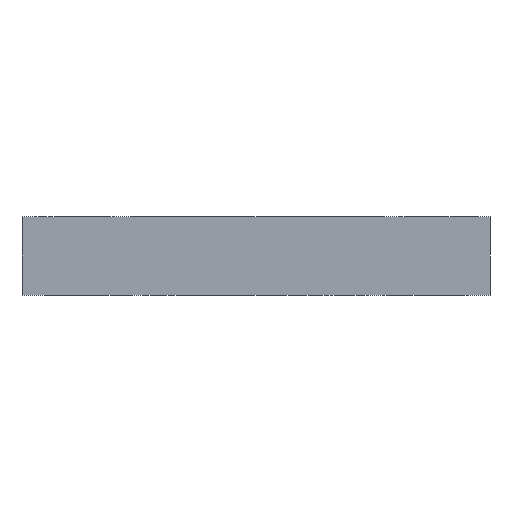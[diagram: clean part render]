
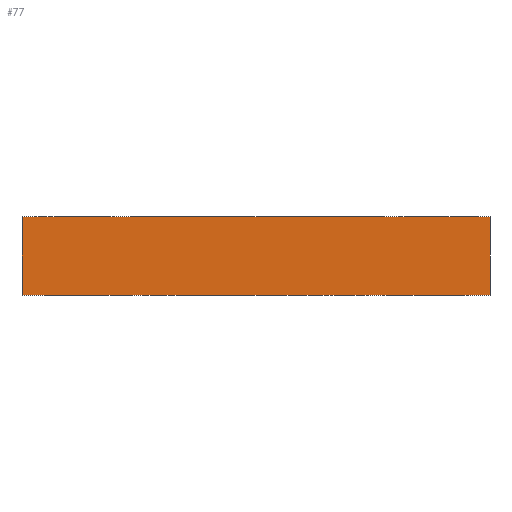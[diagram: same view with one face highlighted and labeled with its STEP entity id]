
A CAD part, front view. The second image highlights one B-rep face of the part: STEP entity #77.
In plain terms, the highlighted planar face has unit normal (0, -1, 0).
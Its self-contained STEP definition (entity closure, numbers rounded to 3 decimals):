
#77=ADVANCED_FACE('',(#140),#640,.T.);
#140=FACE_OUTER_BOUND('',#254,.F.);
#254=EDGE_LOOP('',(#388,#389,#390,#391));
#388=ORIENTED_EDGE('',*,*,#859,.T.);
#389=ORIENTED_EDGE('',*,*,#866,.F.);
#390=ORIENTED_EDGE('',*,*,#863,.F.);
#391=ORIENTED_EDGE('',*,*,#867,.T.);
#640=PLANE('',#1239);
#667=LINE('',#1864,#727);
#671=LINE('',#1868,#731);
#674=LINE('',#1871,#734);
#675=LINE('',#1872,#735);
#727=VECTOR('',#1451,38.8);
#731=VECTOR('',#1455,38.8);
#734=VECTOR('',#1458,6.5);
#735=VECTOR('',#1459,6.5);
#859=EDGE_CURVE('',#1059,#1060,#667,.T.);
#863=EDGE_CURVE('',#1055,#1056,#671,.T.);
#866=EDGE_CURVE('',#1056,#1060,#674,.T.);
#867=EDGE_CURVE('',#1055,#1059,#675,.T.);
#1055=VERTEX_POINT('',#1704);
#1056=VERTEX_POINT('',#1705);
#1059=VERTEX_POINT('',#1708);
#1060=VERTEX_POINT('',#1709);
#1239=AXIS2_PLACEMENT_3D('',#1946,#1561,#1562);
#1451=DIRECTION('',(-1.,0.,0.));
#1455=DIRECTION('',(-1.,0.,0.));
#1458=DIRECTION('',(0.,0.,-1.));
#1459=DIRECTION('',(0.,0.,-1.));
#1561=DIRECTION('',(0.,-1.,0.));
#1562=DIRECTION('',(-1.,0.,0.));
#1704=CARTESIAN_POINT('',(981.475,281.287,411.824));
#1705=CARTESIAN_POINT('',(942.675,281.287,411.824));
#1708=CARTESIAN_POINT('',(981.475,281.287,405.324));
#1709=CARTESIAN_POINT('',(942.675,281.287,405.324));
#1864=CARTESIAN_POINT('',(981.475,281.287,405.324));
#1868=CARTESIAN_POINT('',(981.475,281.287,411.824));
#1871=CARTESIAN_POINT('',(942.675,281.287,411.824));
#1872=CARTESIAN_POINT('',(981.475,281.287,411.824));
#1946=CARTESIAN_POINT('',(981.863,281.287,412.212));
